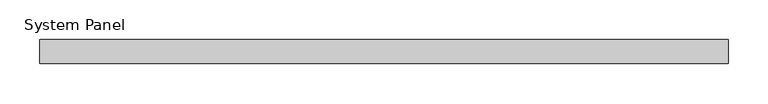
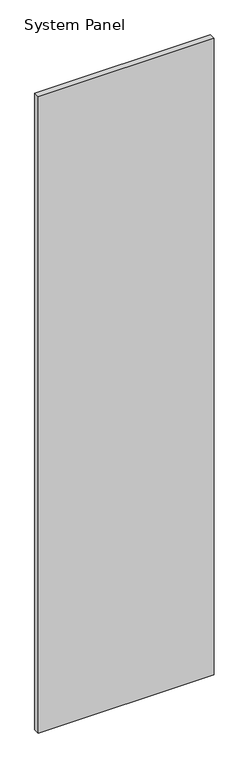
"""IFC4 building model written with IfcOpenShell, lengths in millimetres: plate geometry, System Panel : Panel_Glazed_Generic Showcase_30mm."""

from ifc_helpers import new_model, si_unit, origin, origin_with_axes, place, context, project, spatial, polyline, outline, extrude, source, transform, mapped, element, save


def system_panel_06a197ed(model_context):
    return source(origin(), model_context, "Body", "SweptSolid", [
        extrude(outline(polyline([(431.25, -30.0), (-431.25, -30.0), (-431.25, 0.0), (431.25, 0.0), (431.25, -30.0)])), origin_with_axes(), (0.0, 0.0, 1.0), 3300.0),
    ])


if __name__ == "__main__":
    model = new_model("IFC4")
    model_context = context("Model", 3, world=origin())
    ifc_project = project(units=[si_unit("LENGTHUNIT", "METRE", prefix="MILLI")], contexts=[model_context])
    site = spatial("IfcSite", under=ifc_project)
    building = spatial("IfcBuilding", under=site)
    placement = place(None, origin())
    system_panel_shape = system_panel_06a197ed(model_context)
    element("IfcPlate", 1, ObjectType="System Panel : Panel_Glazed_Generic Showcase_30mm", at=placement, inside=building, context=model_context, shape_type="MappedRepresentation", body=[
        mapped(system_panel_shape, transform((0.0, 0.0, 0.0), x_axis=(1.0, 0.0, 0.0), y_axis=(0.0, 1.0, 0.0), z_axis=(0.0, 0.0, 1.0))),
    ])
    save(model, "model.ifc")
